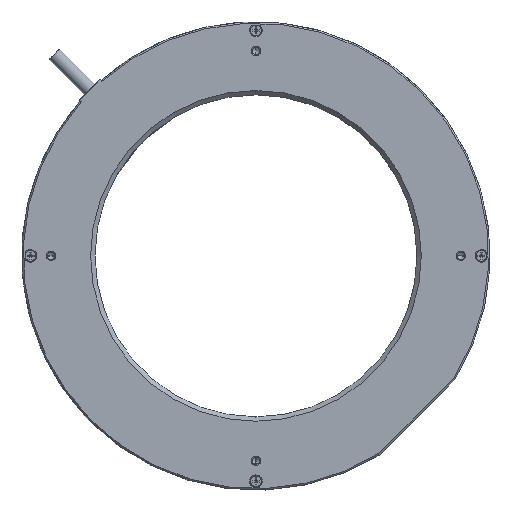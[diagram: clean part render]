
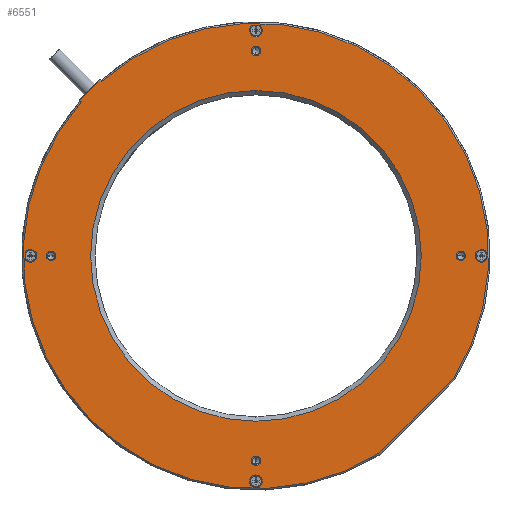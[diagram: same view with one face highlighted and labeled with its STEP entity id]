
A CAD part, top view. The second image highlights one B-rep face of the part: STEP entity #6551.
In plain terms, the highlighted planar face has unit normal (0, 0, 1).
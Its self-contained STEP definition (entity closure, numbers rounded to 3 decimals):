
#552=CARTESIAN_POINT('',(0.,0.,3.6));
#553=DIRECTION('',(0.,0.,1.));
#554=DIRECTION('',(0.849,-0.529,0.));
#555=AXIS2_PLACEMENT_3D('',#552,#553,#554);
#557=CARTESIAN_POINT('',(-52.718,59.507,3.6));
#585=CARTESIAN_POINT('',(0.,0.,3.6));
#586=DIRECTION('',(0.,0.,-1.));
#587=DIRECTION('',(0.015,-1.,0.));
#588=AXIS2_PLACEMENT_3D('',#585,#586,#587);
#590=CARTESIAN_POINT('',(0.,0.,3.6));
#591=DIRECTION('',(0.,0.,-1.));
#592=DIRECTION('',(-1.,-0.015,0.));
#593=AXIS2_PLACEMENT_3D('',#590,#591,#592);
#595=CARTESIAN_POINT('',(0.,0.,3.6));
#596=DIRECTION('',(0.,0.,-1.));
#597=DIRECTION('',(-0.015,1.,0.));
#598=AXIS2_PLACEMENT_3D('',#595,#596,#597);
#600=CARTESIAN_POINT('',(0.,0.,3.6));
#601=DIRECTION('',(0.,0.,-1.));
#602=DIRECTION('',(1.,0.015,0.));
#603=AXIS2_PLACEMENT_3D('',#600,#601,#602);
#605=CARTESIAN_POINT('',(0.,0.,3.6));
#606=DIRECTION('',(0.,0.,-1.));
#607=DIRECTION('',(0.,-1.,0.));
#608=AXIS2_PLACEMENT_3D('',#605,#606,#607);
#610=CARTESIAN_POINT('',(0.,0.,3.6));
#611=DIRECTION('',(0.,0.,-1.));
#612=DIRECTION('',(0.,1.,0.));
#613=AXIS2_PLACEMENT_3D('',#610,#611,#612);
#615=CARTESIAN_POINT('',(0.,-70.,3.6));
#616=DIRECTION('',(0.,0.,-1.));
#617=DIRECTION('',(0.,1.,0.));
#618=AXIS2_PLACEMENT_3D('',#615,#616,#617);
#620=CARTESIAN_POINT('',(0.,-70.,3.6));
#621=DIRECTION('',(0.,0.,-1.));
#622=DIRECTION('',(0.,-1.,0.));
#623=AXIS2_PLACEMENT_3D('',#620,#621,#622);
#625=CARTESIAN_POINT('',(-70.,0.,3.6));
#626=DIRECTION('',(0.,0.,-1.));
#627=DIRECTION('',(1.,0.,0.));
#628=AXIS2_PLACEMENT_3D('',#625,#626,#627);
#630=CARTESIAN_POINT('',(-70.,0.,3.6));
#631=DIRECTION('',(0.,0.,-1.));
#632=DIRECTION('',(-1.,0.,0.));
#633=AXIS2_PLACEMENT_3D('',#630,#631,#632);
#635=CARTESIAN_POINT('',(0.,70.,3.6));
#636=DIRECTION('',(0.,0.,-1.));
#637=DIRECTION('',(0.,-1.,0.));
#638=AXIS2_PLACEMENT_3D('',#635,#636,#637);
#640=CARTESIAN_POINT('',(0.,70.,3.6));
#641=DIRECTION('',(0.,0.,-1.));
#642=DIRECTION('',(0.,1.,0.));
#643=AXIS2_PLACEMENT_3D('',#640,#641,#642);
#645=CARTESIAN_POINT('',(70.,0.,3.6));
#646=DIRECTION('',(0.,0.,-1.));
#647=DIRECTION('',(-1.,0.,0.));
#648=AXIS2_PLACEMENT_3D('',#645,#646,#647);
#650=CARTESIAN_POINT('',(70.,0.,3.6));
#651=DIRECTION('',(0.,0.,-1.));
#652=DIRECTION('',(1.,0.,0.));
#653=AXIS2_PLACEMENT_3D('',#650,#651,#652);
#655=DIRECTION('',(0.707,-0.707,0.));
#656=VECTOR('',#655,0.087);
#657=CARTESIAN_POINT('',(67.422,-41.966,3.6));
#658=LINE('',#657,#656);
#659=DIRECTION('',(0.707,0.707,0.));
#660=VECTOR('',#659,36.);
#661=CARTESIAN_POINT('',(41.966,-67.422,3.6));
#662=LINE('',#661,#660);
#663=DIRECTION('',(-0.707,0.707,0.));
#664=VECTOR('',#663,0.087);
#665=CARTESIAN_POINT('',(42.027,-67.483,3.6));
#666=LINE('',#665,#664);
#667=CARTESIAN_POINT('',(-1.189,-78.791,3.6));
#677=CARTESIAN_POINT('',(0.,-77.,3.6));
#678=DIRECTION('',(0.,0.,-1.));
#679=DIRECTION('',(-0.553,-0.833,0.));
#680=AXIS2_PLACEMENT_3D('',#677,#678,#679);
#690=CARTESIAN_POINT('',(1.189,-78.791,3.6));
#710=CARTESIAN_POINT('',(-78.791,1.189,3.6));
#720=CARTESIAN_POINT('',(-77.,0.,3.6));
#721=DIRECTION('',(0.,0.,-1.));
#722=DIRECTION('',(-0.833,0.553,0.));
#723=AXIS2_PLACEMENT_3D('',#720,#721,#722);
#733=CARTESIAN_POINT('',(-78.791,-1.189,3.6));
#1034=CARTESIAN_POINT('',(1.189,78.791,3.6));
#1044=CARTESIAN_POINT('',(0.,77.,3.6));
#1045=DIRECTION('',(0.,0.,-1.));
#1046=DIRECTION('',(0.553,0.833,0.));
#1047=AXIS2_PLACEMENT_3D('',#1044,#1045,#1046);
#1057=CARTESIAN_POINT('',(-1.189,78.791,3.6));
#1358=CARTESIAN_POINT('',(78.791,-1.189,3.6));
#1368=CARTESIAN_POINT('',(77.,0.,3.6));
#1369=DIRECTION('',(0.,0.,-1.));
#1370=DIRECTION('',(0.833,-0.553,0.));
#1371=AXIS2_PLACEMENT_3D('',#1368,#1369,#1370);
#1381=CARTESIAN_POINT('',(78.791,1.189,3.6));
#3666=CARTESIAN_POINT('',(67.483,-42.027,3.6));
#3922=CARTESIAN_POINT('',(42.027,-67.483,3.6));
#3932=CARTESIAN_POINT('',(0.,0.,3.6));
#3933=DIRECTION('',(0.,0.,1.));
#3934=DIRECTION('',(-0.749,0.663,0.));
#3935=AXIS2_PLACEMENT_3D('',#3932,#3933,#3934);
#3963=CARTESIAN_POINT('',(-59.507,52.718,3.6));
#3965=DIRECTION('',(0.707,-0.707,0.));
#3966=VECTOR('',#3965,0.845);
#3967=CARTESIAN_POINT('',(-60.104,53.316,3.6));
#3968=LINE('',#3967,#3966);
#3988=DIRECTION('',(0.707,0.707,0.));
#3989=VECTOR('',#3988,9.6);
#3990=CARTESIAN_POINT('',(-60.104,53.316,3.6));
#3991=LINE('',#3990,#3989);
#4011=DIRECTION('',(-0.707,0.707,0.));
#4012=VECTOR('',#4011,0.845);
#4013=CARTESIAN_POINT('',(-52.718,59.507,3.6));
#4014=LINE('',#4013,#4012);
#4636=CARTESIAN_POINT('',(71.6,0.,3.6));
#4637=CARTESIAN_POINT('',(68.4,0.,3.6));
#4638=VERTEX_POINT('',#4636);
#4639=VERTEX_POINT('',#4637);
#4640=CARTESIAN_POINT('',(0.,71.6,3.6));
#4641=CARTESIAN_POINT('',(0.,68.4,3.6));
#4642=VERTEX_POINT('',#4640);
#4643=VERTEX_POINT('',#4641);
#4644=CARTESIAN_POINT('',(-71.6,0.,3.6));
#4645=CARTESIAN_POINT('',(-68.4,0.,3.6));
#4646=VERTEX_POINT('',#4644);
#4647=VERTEX_POINT('',#4645);
#4648=CARTESIAN_POINT('',(0.,-71.6,3.6));
#4649=CARTESIAN_POINT('',(0.,-68.4,3.6));
#4650=VERTEX_POINT('',#4648);
#4651=VERTEX_POINT('',#4649);
#4652=CARTESIAN_POINT('',(0.,56.5,3.6));
#4653=CARTESIAN_POINT('',(0.,-56.5,3.6));
#4654=VERTEX_POINT('',#4652);
#4655=VERTEX_POINT('',#4653);
#5348=CARTESIAN_POINT('',(-53.316,60.104,3.6));
#5349=VERTEX_POINT('',#5348);
#5350=CARTESIAN_POINT('',(-60.104,53.316,3.6));
#5351=VERTEX_POINT('',#5350);
#5502=CARTESIAN_POINT('',(67.422,-41.966,3.6));
#5503=VERTEX_POINT('',#5502);
#5504=CARTESIAN_POINT('',(41.966,-67.422,3.6));
#5505=VERTEX_POINT('',#5504);
#5520=VERTEX_POINT('',#710);
#5523=VERTEX_POINT('',#733);
#5524=VERTEX_POINT('',#667);
#5527=VERTEX_POINT('',#690);
#5528=VERTEX_POINT('',#1358);
#5531=VERTEX_POINT('',#1381);
#5532=VERTEX_POINT('',#1034);
#5535=VERTEX_POINT('',#1057);
#5573=VERTEX_POINT('',#3666);
#5574=VERTEX_POINT('',#3922);
#5580=VERTEX_POINT('',#557);
#5583=VERTEX_POINT('',#3963);
#6479=CARTESIAN_POINT('',(0.,0.,3.6));
#6480=DIRECTION('',(0.,0.,1.));
#6481=DIRECTION('',(0.,1.,0.));
#6482=AXIS2_PLACEMENT_3D('',#6479,#6480,#6481);
#6483=PLANE('',#6482);
#6484=ORIENTED_EDGE('',*,*,#6468,.F.);
#6486=ORIENTED_EDGE('',*,*,#6485,.F.);
#6488=ORIENTED_EDGE('',*,*,#6487,.F.);
#6490=ORIENTED_EDGE('',*,*,#6489,.F.);
#6492=ORIENTED_EDGE('',*,*,#6491,.F.);
#6494=ORIENTED_EDGE('',*,*,#6493,.F.);
#6496=ORIENTED_EDGE('',*,*,#6495,.T.);
#6498=ORIENTED_EDGE('',*,*,#6497,.F.);
#6499=EDGE_LOOP('',(#6484,#6486,#6488,#6490,#6492,#6494,#6496,#6498));
#6500=FACE_OUTER_BOUND('',#6499,.F.);
#6502=ORIENTED_EDGE('',*,*,#6501,.F.);
#6503=ORIENTED_EDGE('',*,*,#6073,.F.);
#6504=EDGE_LOOP('',(#6502,#6503));
#6505=FACE_BOUND('',#6504,.F.);
#6507=ORIENTED_EDGE('',*,*,#6506,.F.);
#6508=ORIENTED_EDGE('',*,*,#6132,.F.);
#6509=EDGE_LOOP('',(#6507,#6508));
#6510=FACE_BOUND('',#6509,.F.);
#6512=ORIENTED_EDGE('',*,*,#6511,.F.);
#6513=ORIENTED_EDGE('',*,*,#6112,.F.);
#6514=EDGE_LOOP('',(#6512,#6513));
#6515=FACE_BOUND('',#6514,.F.);
#6517=ORIENTED_EDGE('',*,*,#6516,.F.);
#6519=ORIENTED_EDGE('',*,*,#6518,.F.);
#6520=EDGE_LOOP('',(#6517,#6519));
#6521=FACE_BOUND('',#6520,.F.);
#6523=ORIENTED_EDGE('',*,*,#6522,.F.);
#6525=ORIENTED_EDGE('',*,*,#6524,.F.);
#6526=EDGE_LOOP('',(#6523,#6525));
#6527=FACE_BOUND('',#6526,.F.);
#6529=ORIENTED_EDGE('',*,*,#6528,.F.);
#6531=ORIENTED_EDGE('',*,*,#6530,.F.);
#6532=EDGE_LOOP('',(#6529,#6531));
#6533=FACE_BOUND('',#6532,.F.);
#6535=ORIENTED_EDGE('',*,*,#6534,.F.);
#6537=ORIENTED_EDGE('',*,*,#6536,.F.);
#6538=EDGE_LOOP('',(#6535,#6537));
#6539=FACE_BOUND('',#6538,.F.);
#6541=ORIENTED_EDGE('',*,*,#6540,.F.);
#6543=ORIENTED_EDGE('',*,*,#6542,.F.);
#6544=EDGE_LOOP('',(#6541,#6543));
#6545=FACE_BOUND('',#6544,.F.);
#6547=ORIENTED_EDGE('',*,*,#6546,.F.);
#6548=ORIENTED_EDGE('',*,*,#6092,.F.);
#6549=EDGE_LOOP('',(#6547,#6548));
#6550=FACE_BOUND('',#6549,.F.);
#6551=ADVANCED_FACE('',(#6500,#6505,#6510,#6515,#6521,#6527,#6533,#6539,#6545,
#6550),#6483,.T.);
#556=CIRCLE('',#555,79.5);
#589=CIRCLE('',#588,78.8);
#594=CIRCLE('',#593,78.8);
#599=CIRCLE('',#598,78.8);
#604=CIRCLE('',#603,78.8);
#609=CIRCLE('',#608,56.5);
#614=CIRCLE('',#613,56.5);
#619=CIRCLE('',#618,1.6);
#624=CIRCLE('',#623,1.6);
#629=CIRCLE('',#628,1.6);
#634=CIRCLE('',#633,1.6);
#639=CIRCLE('',#638,1.6);
#644=CIRCLE('',#643,1.6);
#649=CIRCLE('',#648,1.6);
#654=CIRCLE('',#653,1.6);
#681=CIRCLE('',#680,2.15);
#724=CIRCLE('',#723,2.15);
#1048=CIRCLE('',#1047,2.15);
#1372=CIRCLE('',#1371,2.15);
#3936=CIRCLE('',#3935,79.5);
#6073=EDGE_CURVE('',#5523,#5520,#594,.T.);
#6092=EDGE_CURVE('',#5527,#5524,#589,.T.);
#6112=EDGE_CURVE('',#5531,#5528,#604,.T.);
#6132=EDGE_CURVE('',#5535,#5532,#599,.T.);
#6468=EDGE_CURVE('',#5573,#5580,#556,.T.);
#6485=EDGE_CURVE('',#5503,#5573,#658,.T.);
#6487=EDGE_CURVE('',#5505,#5503,#662,.T.);
#6489=EDGE_CURVE('',#5574,#5505,#666,.T.);
#6491=EDGE_CURVE('',#5583,#5574,#3936,.T.);
#6493=EDGE_CURVE('',#5351,#5583,#3968,.T.);
#6495=EDGE_CURVE('',#5351,#5349,#3991,.T.);
#6497=EDGE_CURVE('',#5580,#5349,#4014,.T.);
#6501=EDGE_CURVE('',#5520,#5523,#724,.T.);
#6506=EDGE_CURVE('',#5532,#5535,#1048,.T.);
#6511=EDGE_CURVE('',#5528,#5531,#1372,.T.);
#6516=EDGE_CURVE('',#4655,#4654,#609,.T.);
#6518=EDGE_CURVE('',#4654,#4655,#614,.T.);
#6522=EDGE_CURVE('',#4651,#4650,#619,.T.);
#6524=EDGE_CURVE('',#4650,#4651,#624,.T.);
#6528=EDGE_CURVE('',#4647,#4646,#629,.T.);
#6530=EDGE_CURVE('',#4646,#4647,#634,.T.);
#6534=EDGE_CURVE('',#4643,#4642,#639,.T.);
#6536=EDGE_CURVE('',#4642,#4643,#644,.T.);
#6540=EDGE_CURVE('',#4639,#4638,#649,.T.);
#6542=EDGE_CURVE('',#4638,#4639,#654,.T.);
#6546=EDGE_CURVE('',#5524,#5527,#681,.T.);
